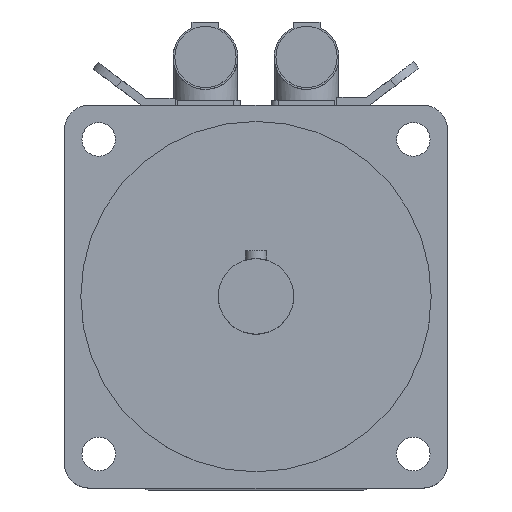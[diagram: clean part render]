
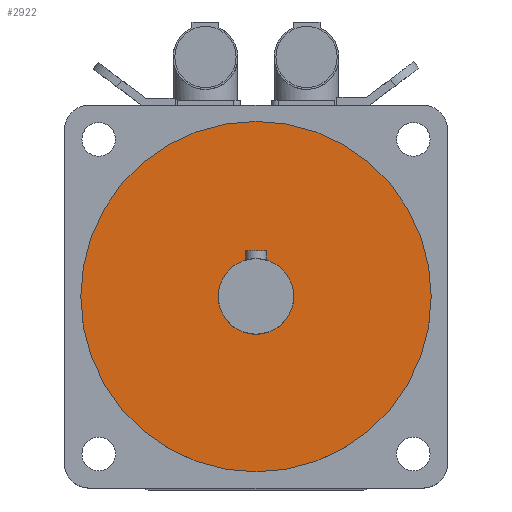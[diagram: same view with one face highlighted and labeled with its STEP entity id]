
A CAD part, top view. The second image highlights one B-rep face of the part: STEP entity #2922.
In plain terms, the highlighted planar face has unit normal (0, 0, 1).
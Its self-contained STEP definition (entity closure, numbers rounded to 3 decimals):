
#614=PLANE('',#3118);
#692=FACE_BOUND('',#926,.T.);
#742=FACE_OUTER_BOUND('',#925,.T.);
#925=EDGE_LOOP('',(#2098));
#926=EDGE_LOOP('',(#2099));
#1112=CIRCLE('',#3113,14.);
#1113=CIRCLE('',#3116,65.);
#1298=VERTEX_POINT('',#4521);
#1299=VERTEX_POINT('',#4525);
#1604=EDGE_CURVE('',#1298,#1298,#1112,.T.);
#1605=EDGE_CURVE('',#1299,#1299,#1113,.T.);
#2098=ORIENTED_EDGE('',*,*,#1605,.T.);
#2099=ORIENTED_EDGE('',*,*,#1604,.T.);
#2922=ADVANCED_FACE('',(#742,#692),#614,.T.);
#3113=AXIS2_PLACEMENT_3D('',#4522,#3545,#3546);
#3116=AXIS2_PLACEMENT_3D('',#4526,#3551,#3552);
#3118=AXIS2_PLACEMENT_3D('',#4529,#3555,#3556);
#3545=DIRECTION('center_axis',(0.,0.,-1.));
#3546=DIRECTION('ref_axis',(-1.,0.,0.));
#3551=DIRECTION('center_axis',(0.,0.,1.));
#3552=DIRECTION('ref_axis',(-1.,0.,0.));
#3555=DIRECTION('center_axis',(0.,0.,1.));
#3556=DIRECTION('ref_axis',(1.,0.,0.));
#4521=CARTESIAN_POINT('',(14.,0.,388.));
#4522=CARTESIAN_POINT('Origin',(0.,0.,388.));
#4525=CARTESIAN_POINT('',(65.,0.,388.));
#4526=CARTESIAN_POINT('Origin',(0.,0.,388.));
#4529=CARTESIAN_POINT('Origin',(0.,0.,388.));
